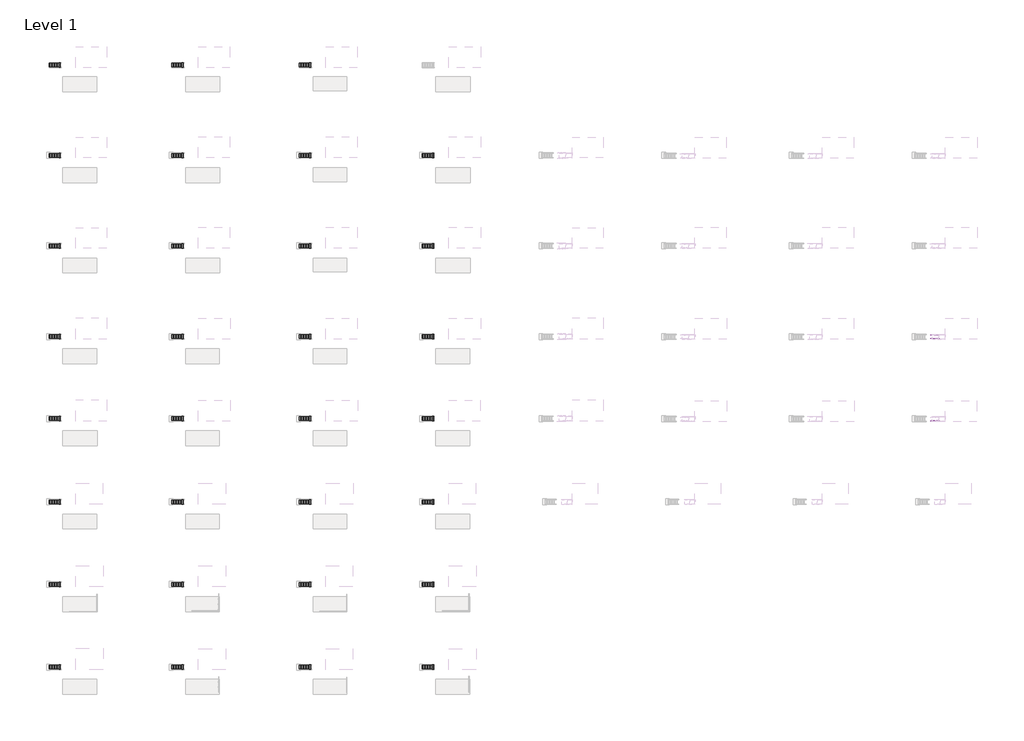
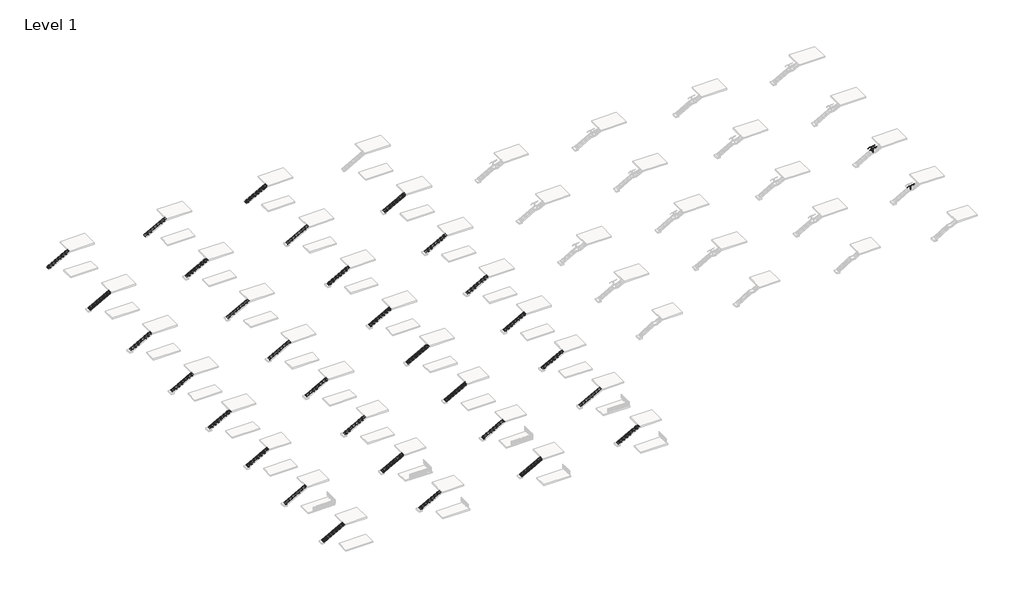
# One storey, part 19 of 26: 31 stair flights, 3 railings.
"""IFC4 building model written with IfcOpenShell, lengths in millimetres."""

from ifc_helpers import new_model, si_unit, point, frame, frame_2d, origin, place, context, project, spatial, polyline, circle_curve, ellipse_curve, trimmed, segment, composite_curve, outline, extrude, faceted_brep, transform, mapped, element, save
from ifc_brep_helpers import plane_surface, cylinder_surface, advanced_brep
from components import stair_flight_2dc6aed0, stair_flight_3eceba13, stair_flight_4fed3eda, stair_flight_8de542de, stair_flight_84e7cb00, stair_flight_2737e0a9, stair_flight_0f1b8569, stair_flight_8bf837ec, stair_flight_2ec5e118, stair_flight_85ec2495, stair_flight_6cf72abf, stair_flight_11199e40, stair_flight_c90e1b77, stair_flight_90c08f38, stair_flight_003d50ed, stair_flight_aaa9c3da, stair_flight_b5908534, stair_flight_c568fea4, stair_flight_5f5a8382, stair_flight_deab16ef, stair_flight_c19d4ff8, stair_flight_ff1bd8d3, stair_flight_e10324fa, stair_flight_2d0f6cab, stair_flight_49b249d5, stair_flight_25ca64cd, stair_flight_015d8b91, stair_flight_cfc8582b, stair_flight_8a9467b6, stair_flight_b878c745, stair_flight_1cc1b1d4

model = new_model("IFC4")

# Units and contexts
model_context = context("Model", 3, world=origin())
ifc_project = project(units=[si_unit("LENGTHUNIT", "METRE", prefix="MILLI")], contexts=[model_context])

# Site, building, storey
site = spatial("IfcSite", under=ifc_project)
building = spatial("IfcBuilding", under=site)
storey = spatial("IfcBuildingStorey", under=building, Name="Level 1", Elevation=0.0)

# Railings
placement = place(None, origin())
element("IfcRailing", 1, ObjectType="VIVA-CUBE-Perforated-Core Mount-Stair-Landing", at=placement, inside=storey, context=model_context, shape_type="SolidModel", body=[
    advanced_brep(
    [(162601.2620703, -1629.7986114, 3009.6740933), (162601.2620703, -1578.9986114, 3009.6740933), (162989.007407, -1629.7986114, 3231.2428571), (162989.007407, -1578.9986114, 3231.2428571), (164055.807407, -1629.7986114, 3231.2428571), (164055.807407, -1578.9986114, 3231.2428571), (164325.2870703, -1629.7986114, 3385.2312362), (164325.2870703, -1578.9986114, 3385.2312362)],
    [
        (0, 1, ellipse_curve(frame((162601.2620703, -1604.3986114, 3009.6740933), z_axis=(-1.0, 0.0, 0.0), x_axis=(0.0, 0.0, -1.0)), 29.2544781, 25.4)),
        (1, 0, ellipse_curve(frame((162601.2620703, -1604.3986114, 3009.6740933), z_axis=(-1.0, 0.0, 0.0), x_axis=(0.0, 0.0, -1.0)), 29.2544781, 25.4)),
        (0, 2),
        (2, 3, ellipse_curve(frame((162989.007407, -1604.3986114, 3231.2428571), z_axis=(-0.9664996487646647, 0.0, -0.25666793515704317), x_axis=(0.2566679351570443, 0.0, -0.9664996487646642)), 26.2804027, 25.4)),
        (3, 1),
        (3, 2, ellipse_curve(frame((162989.007407, -1604.3986114, 3231.2428571), z_axis=(-0.9664996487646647, 0.0, -0.25666793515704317), x_axis=(0.2566679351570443, 0.0, -0.9664996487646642)), 26.2804027, 25.4)),
        (2, 4),
        (4, 5, ellipse_curve(frame((164055.807407, -1604.3986114, 3231.2428571), z_axis=(-0.966499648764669, 0.0, -0.25666793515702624), x_axis=(-0.2566679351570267, 0.0, 0.966499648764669)), 26.2804027, 25.4)),
        (5, 3),
        (5, 4, ellipse_curve(frame((164055.807407, -1604.3986114, 3231.2428571), z_axis=(-0.966499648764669, 0.0, -0.25666793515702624), x_axis=(-0.2566679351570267, 0.0, 0.966499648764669)), 26.2804027, 25.4)),
        (6, 7, ellipse_curve(frame((164325.2870703, -1604.3986114, 3385.2312362), z_axis=(1.0, 0.0, 0.0), x_axis=(0.0, 0.0, -1.0)), 29.2544781, 25.4)),
        (7, 6, ellipse_curve(frame((164325.2870703, -1604.3986114, 3385.2312362), z_axis=(1.0, 0.0, 0.0), x_axis=(0.0, 0.0, -1.0)), 29.2544781, 25.4)),
        (4, 6),
        (7, 5),
    ],
    [
        plane_surface(frame((162601.2620703, -1604.3986114, 3038.9285714), z_axis=(-1.0, 0.0, 0.0), x_axis=(0.0, 1.0, 0.0))),
        cylinder_surface(frame((162613.8639993, -1604.3986114, 3016.8751956), z_axis=(-0.8682431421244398, 0.0, -0.4961389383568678), x_axis=(0.0, 1.0, 0.0)), 25.4),
        cylinder_surface(frame((162982.2620703, -1604.3986114, 3231.2428571), z_axis=(-1.0, 0.0, 0.0), x_axis=(0.0, 1.0, 0.0)), 25.4),
        plane_surface(frame((164325.2870703, -1604.3986114, 3414.4857143), z_axis=(1.0, 0.0, 0.0), x_axis=(0.0, 1.0, 0.0))),
        cylinder_surface(frame((164061.6639993, -1604.3986114, 3234.5894813), z_axis=(-0.8682431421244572, 0.0, -0.49613893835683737), x_axis=(0.0, 1.0, 0.0)), 25.4),
    ],
    [
        (0, [[1, 2]]),
        (1, [[-1, 3, 4, 5]]),
        (1, [[-2, -5, 6, -3]]),
        (2, [[-4, 7, 8, 9]]),
        (2, [[-6, -9, 10, -7]]),
        (3, [[11, 12]]),
        (4, [[-8, 13, -12, 14]]),
        (4, [[-10, -14, -11, -13]]),
    ],
),
    extrude(outline(composite_curve([segment(trimmed(circle_curve(frame_2d((0.0, 7.0)), 7.0), [point((0.0, 14.0))], [point((0.0, 0.0))], False, "CARTESIAN"), True, "CONTINUOUS"), segment(trimmed(circle_curve(frame_2d((0.0, 7.0)), 7.0), [point((0.0, 0.0))], [point((0.0, 14.0))], False, "CARTESIAN"), True, "CONTINUOUS")], self_intersect=False)), frame((163463.7668308, -1690.0824372, 2972.3156836), z_axis=(-0.0012555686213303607, 0.0, 0.999999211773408), x_axis=(-0.999999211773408, 0.0, -0.0012555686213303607)), (0.0, 0.0, 1.0), 75.97),
    extrude(outline(composite_curve([segment(polyline([(-1684.800781, 3056.8509005), (-1683.7743913, 3055.8335135)]), True, "CONTINUOUS"), segment(trimmed(circle_curve(frame_2d((-1684.8303692, 3054.7681916)), 1.5), [point((-1683.7743913, 3055.8335135))], [point((-1683.8449677, 3053.6372698))], False, "CARTESIAN"), True, "CONTINUOUS"), segment(trimmed(circle_curve(frame_2d((-1698.3303692, 3070.2618193)), 22.05), [point((-1683.8449677, 3053.6372698))], [point((-1712.8157707, 3053.6372698))], False, "CARTESIAN"), True, "CONTINUOUS"), segment(trimmed(circle_curve(frame_2d((-1711.8303692, 3054.7681916)), 1.5), [point((-1712.8157707, 3053.6372698))], [point((-1712.8863471, 3055.8335135))], False, "CARTESIAN"), True, "CONTINUOUS"), segment(polyline([(-1712.8863471, 3055.8335135), (-1711.8599574, 3056.8509005)]), True, "CONTINUOUS"), segment(trimmed(circle_curve(frame_2d((-1698.3303692, 3070.2618193)), 19.05), [point((-1711.8599574, 3056.8509005))], [point((-1684.800781, 3056.8509005))], True, "CARTESIAN"), True, "CONTINUOUS")], self_intersect=False)), frame((163425.5952969, 0.0, 0.0), z_axis=(1.0, 0.0, 0.0), x_axis=(0.0, 1.0, 0.0)), (0.0, 0.0, 1.0), 74.5229187),
    extrude(outline(composite_curve([segment(trimmed(circle_curve(frame_2d((2999.1922796, 163463.7069273)), 12.5), [point((2999.1922796, 163476.2069273))], [point((2999.1922796, 163451.2069273))], False, "CARTESIAN"), True, "CONTINUOUS"), segment(trimmed(circle_curve(frame_2d((2999.1922796, 163463.7069273)), 12.5), [point((2999.1922796, 163451.2069273))], [point((2999.1922796, 163476.2069273))], False, "CARTESIAN"), True, "CONTINUOUS")], self_intersect=False)), frame((0.0, -1711.8599574, 0.0), z_axis=(0.0, 1.0, 0.0), x_axis=(0.0, 0.0, 1.0)), (0.0, 0.0, 1.0), 82.061346),
    extrude(outline(composite_curve([segment(trimmed(circle_curve(frame_2d((2999.1922796, 163463.7069273)), 12.5), [point((2999.1922796, 163451.2069273))], [point((2999.1922796, 163476.2069273))], False, "CARTESIAN"), True, "CONTINUOUS"), segment(trimmed(circle_curve(frame_2d((2999.1922796, 163463.7069273)), 12.5), [point((2999.1922796, 163476.2069273))], [point((2999.1922796, 163451.2069273))], False, "CARTESIAN"), True, "CONTINUOUS")], self_intersect=False)), frame((0.0, -1578.9986114, 0.0), z_axis=(0.0, 1.0, 0.0), x_axis=(0.0, 0.0, 1.0)), (0.0, 0.0, 1.0), 7.62),
    extrude(outline(composite_curve([segment(trimmed(circle_curve(frame_2d((163463.6714453, -1604.3986114)), 63.5), [point((163463.6714453, -1540.8986114))], [point((163463.6714453, -1667.8986114))], False, "CARTESIAN"), True, "CONTINUOUS"), segment(trimmed(circle_curve(frame_2d((163463.6714453, -1604.3986114)), 63.5), [point((163463.6714453, -1667.8986114))], [point((163463.6714453, -1540.8986114))], False, "CARTESIAN"), True, "CONTINUOUS")], self_intersect=False), holes=[composite_curve([segment(trimmed(circle_curve(frame_2d((163428.2017014, -1568.9288675)), 4.7625), [point((163428.2017014, -1564.1663675))], [point((163428.2017014, -1573.6913675))], True, "CARTESIAN"), True, "CONTINUOUS"), segment(trimmed(circle_curve(frame_2d((163428.2017014, -1568.9288675)), 4.7625), [point((163428.2017014, -1573.6913675))], [point((163428.2017014, -1564.1663675))], True, "CARTESIAN"), True, "CONTINUOUS")], self_intersect=False), composite_curve([segment(trimmed(circle_curve(frame_2d((163428.2017014, -1639.8683553)), 4.7625), [point((163428.2017014, -1635.1058553))], [point((163428.2017014, -1644.6308553))], True, "CARTESIAN"), True, "CONTINUOUS"), segment(trimmed(circle_curve(frame_2d((163428.2017014, -1639.8683553)), 4.7625), [point((163428.2017014, -1644.6308553))], [point((163428.2017014, -1635.1058553))], True, "CARTESIAN"), True, "CONTINUOUS")], self_intersect=False), composite_curve([segment(trimmed(circle_curve(frame_2d((163499.1411892, -1568.9288675)), 4.7625), [point((163499.1411892, -1564.1663675))], [point((163499.1411892, -1573.6913675))], True, "CARTESIAN"), True, "CONTINUOUS"), segment(trimmed(circle_curve(frame_2d((163499.1411892, -1568.9288675)), 4.7625), [point((163499.1411892, -1573.6913675))], [point((163499.1411892, -1564.1663675))], True, "CARTESIAN"), True, "CONTINUOUS")], self_intersect=False), composite_curve([segment(trimmed(circle_curve(frame_2d((163499.1411892, -1639.8683553)), 4.7625), [point((163499.1411892, -1635.1058553))], [point((163499.1411892, -1644.6308553))], True, "CARTESIAN"), True, "CONTINUOUS"), segment(trimmed(circle_curve(frame_2d((163499.1411892, -1639.8683553)), 4.7625), [point((163499.1411892, -1644.6308553))], [point((163499.1411892, -1635.1058553))], True, "CARTESIAN"), True, "CONTINUOUS")], self_intersect=False)]), frame((0.0, 0.0, 2177.1428571), z_axis=(0.0, 0.0, 1.0), x_axis=(1.0, 0.0, 0.0)), (0.0, 0.0, 1.0), 25.4),
    faceted_brep([(163476.3714453, -1617.0986114, 3174.433132), (163476.3714453, -1608.3673614, 3174.433132), (163450.9714453, -1608.3673614, 3174.433132), (163450.9714453, -1617.0986114, 3174.433132), (163450.9714453, -1591.6986114, 3174.433132), (163450.9714453, -1600.4298614, 3174.433132), (163476.3714453, -1600.4298614, 3174.433132), (163476.3714453, -1591.6986114, 3174.433132), (163489.0714453, -1629.7986114, 3118.2776425), (163489.0714453, -1578.9986114, 3118.2776425), (163438.2714453, -1629.7986114, 3118.2776425), (163438.2714453, -1578.9986114, 3118.2776425), (163489.0714453, -1629.7986114, 2088.2428571), (163438.2714453, -1629.7986114, 2088.2428571), (163438.2714453, -1578.9986114, 2088.2428571), (163489.0714453, -1578.9986114, 2088.2428571), (163450.9714453, -1600.4298614, 3186.4734584), (163450.9714453, -1608.3673614, 3186.4734584), (163476.3714453, -1608.3673614, 3186.4734584), (163476.3714453, -1600.4298614, 3186.4734584)], [[[0, 1, 2, 3]], [[4, 5, 6, 7]], [[8, 9, 7, 6, 1, 0]], [[3, 10, 8, 0]], [[3, 2, 5, 4, 11, 10]], [[7, 9, 11, 4]], [[12, 13, 14, 15]], [[12, 8, 10, 13]], [[13, 10, 11, 14]], [[14, 11, 9, 15]], [[15, 9, 8, 12]], [[16, 17, 18, 19]], [[19, 6, 5, 16]], [[18, 1, 6, 19]], [[17, 2, 1, 18]], [[16, 5, 2, 17]]]),
    extrude(outline(composite_curve([segment(trimmed(circle_curve(frame_2d((-1590.3839792, 3206.6530378)), 2.9558141), [point((-1591.9315369, 3209.1713512))], [point((-1588.0956395, 3204.7821187))], False, "CARTESIAN"), True, "CONTINUOUS"), segment(trimmed(circle_curve(frame_2d((-1604.3618767, 3232.0488022)), 31.75), [point((-1588.0956395, 3204.7821187))], [point((-1619.6125317, 3204.2013603))], False, "CARTESIAN"), True, "CONTINUOUS"), segment(trimmed(circle_curve(frame_2d((-1618.1352267, 3206.5739456)), 2.7949225), [point((-1619.6125317, 3204.2013603))], [point((-1616.8905735, 3209.0764304))], False, "CARTESIAN"), True, "CONTINUOUS"), segment(trimmed(circle_curve(frame_2d((-1604.4953398, 3231.2861755)), 25.4345159), [point((-1616.8905735, 3209.0764304))], [point((-1591.9315369, 3209.1713512))], True, "CARTESIAN"), True, "CONTINUOUS")], self_intersect=False)), frame((163418.4340453, 0.0, 0.0), z_axis=(1.0, 0.0, 0.0), x_axis=(0.0, 1.0, 0.0)), (0.0, 0.0, 1.0), 90.4748),
    extrude(outline(composite_curve([segment(polyline([(3200.5113742, 163490.7393602), (3200.5113742, 163436.6035304)]), True, "CONTINUOUS"), segment(trimmed(circle_curve(frame_2d((3186.1434593, 163436.6035304)), 14.3679149), [point((3200.5113742, 163436.6035304))], [point((3186.1434593, 163450.9714453))], True, "CARTESIAN"), True, "CONTINUOUS"), segment(trimmed(circle_curve(frame_2d((3186.1434593, 163463.6714453)), 12.7), [point((3186.1434593, 163450.9714453))], [point((3186.1434593, 163476.3714453))], False, "CARTESIAN"), True, "CONTINUOUS"), segment(trimmed(circle_curve(frame_2d((3186.1434593, 163490.7393602)), 14.3679149), [point((3186.1434593, 163476.3714453))], [point((3200.5113742, 163490.7393602))], True, "CARTESIAN"), True, "CONTINUOUS")], self_intersect=False)), frame((0.0, -1606.9386114, 0.0), z_axis=(0.0, 1.0, 0.0), x_axis=(0.0, 0.0, 1.0)), (0.0, 0.0, 1.0), 5.08),
])
element("IfcRailing", 2, ObjectType="VIVA-CUBE-Perforated-Core Mount-Stair-Landing", at=placement, inside=storey, context=model_context, shape_type="SolidModel", body=[
    advanced_brep(
    [(162601.2620703, -2366.3986114, 3009.6740933), (162601.2620703, -2315.5986114, 3009.6740933), (162989.007407, -2366.3986114, 3231.2428571), (162989.007407, -2315.5986114, 3231.2428571), (164055.807407, -2366.3986114, 3231.2428571), (164055.807407, -2315.5986114, 3231.2428571), (164325.2870703, -2366.3986114, 3385.2312362), (164325.2870703, -2315.5986114, 3385.2312362)],
    [
        (0, 1, ellipse_curve(frame((162601.2620703, -2340.9986114, 3009.6740933), z_axis=(-1.0, 0.0, 0.0), x_axis=(0.0, 0.0, -1.0)), 29.2544781, 25.4)),
        (1, 0, ellipse_curve(frame((162601.2620703, -2340.9986114, 3009.6740933), z_axis=(-1.0, 0.0, 0.0), x_axis=(0.0, 0.0, -1.0)), 29.2544781, 25.4)),
        (0, 2),
        (2, 3, ellipse_curve(frame((162989.007407, -2340.9986114, 3231.2428571), z_axis=(-0.9664996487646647, 0.0, -0.25666793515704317), x_axis=(0.2566679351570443, 0.0, -0.9664996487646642)), 26.2804027, 25.4)),
        (3, 1),
        (3, 2, ellipse_curve(frame((162989.007407, -2340.9986114, 3231.2428571), z_axis=(-0.9664996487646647, 0.0, -0.25666793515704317), x_axis=(0.2566679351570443, 0.0, -0.9664996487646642)), 26.2804027, 25.4)),
        (2, 4),
        (4, 5, ellipse_curve(frame((164055.807407, -2340.9986114, 3231.2428571), z_axis=(-0.966499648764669, 0.0, -0.25666793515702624), x_axis=(-0.2566679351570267, 0.0, 0.966499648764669)), 26.2804027, 25.4)),
        (5, 3),
        (5, 4, ellipse_curve(frame((164055.807407, -2340.9986114, 3231.2428571), z_axis=(-0.966499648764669, 0.0, -0.25666793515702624), x_axis=(-0.2566679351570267, 0.0, 0.966499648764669)), 26.2804027, 25.4)),
        (6, 7, ellipse_curve(frame((164325.2870703, -2340.9986114, 3385.2312362), z_axis=(1.0, 0.0, 0.0), x_axis=(0.0, 0.0, -1.0)), 29.2544781, 25.4)),
        (7, 6, ellipse_curve(frame((164325.2870703, -2340.9986114, 3385.2312362), z_axis=(1.0, 0.0, 0.0), x_axis=(0.0, 0.0, -1.0)), 29.2544781, 25.4)),
        (4, 6),
        (7, 5),
    ],
    [
        plane_surface(frame((162601.2620703, -2340.9986114, 3038.9285714), z_axis=(-1.0, 0.0, 0.0), x_axis=(0.0, 1.0, 0.0))),
        cylinder_surface(frame((162613.8639993, -2340.9986114, 3016.8751956), z_axis=(-0.8682431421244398, 0.0, -0.4961389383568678), x_axis=(0.0, 1.0, 0.0)), 25.4),
        cylinder_surface(frame((162982.2620703, -2340.9986114, 3231.2428571), z_axis=(-1.0, 0.0, 0.0), x_axis=(0.0, 1.0, 0.0)), 25.4),
        plane_surface(frame((164325.2870703, -2340.9986114, 3414.4857143), z_axis=(1.0, 0.0, 0.0), x_axis=(0.0, 1.0, 0.0))),
        cylinder_surface(frame((164061.6639993, -2340.9986114, 3234.5894813), z_axis=(-0.8682431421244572, 0.0, -0.49613893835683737), x_axis=(0.0, 1.0, 0.0)), 25.4),
    ],
    [
        (0, [[1, 2]]),
        (1, [[-1, 3, 4, 5]]),
        (1, [[-2, -5, 6, -3]]),
        (2, [[-4, 7, 8, 9]]),
        (2, [[-6, -9, 10, -7]]),
        (3, [[11, 12]]),
        (4, [[-8, 13, -12, 14]]),
        (4, [[-10, -14, -11, -13]]),
    ],
),
    extrude(outline(composite_curve([segment(trimmed(circle_curve(frame_2d((0.0, -7.0)), 7.0), [point((0.0, -14.0))], [point((0.0, 0.0))], False, "CARTESIAN"), True, "CONTINUOUS"), segment(trimmed(circle_curve(frame_2d((0.0, -7.0)), 7.0), [point((0.0, 0.0))], [point((0.0, -14.0))], False, "CARTESIAN"), True, "CONTINUOUS")], self_intersect=False)), frame((163463.7668308, -2255.3147856, 2972.3156836), z_axis=(-0.0012555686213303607, 0.0, 0.999999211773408), x_axis=(-0.999999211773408, 0.0, -0.0012555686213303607)), (0.0, 0.0, 1.0), 75.97),
    extrude(outline(composite_curve([segment(trimmed(circle_curve(frame_2d((-2247.0668536, 3070.2618193)), 19.05), [point((-2260.5964418, 3056.8509005))], [point((-2233.5372654, 3056.8509005))], True, "CARTESIAN"), True, "CONTINUOUS"), segment(polyline([(-2233.5372654, 3056.8509005), (-2232.5108757, 3055.8335135)]), True, "CONTINUOUS"), segment(trimmed(circle_curve(frame_2d((-2233.5668536, 3054.7681916)), 1.5), [point((-2232.5108757, 3055.8335135))], [point((-2232.5814521, 3053.6372698))], False, "CARTESIAN"), True, "CONTINUOUS"), segment(trimmed(circle_curve(frame_2d((-2247.0668536, 3070.2618193)), 22.05), [point((-2232.5814521, 3053.6372698))], [point((-2261.5522551, 3053.6372698))], False, "CARTESIAN"), True, "CONTINUOUS"), segment(trimmed(circle_curve(frame_2d((-2260.5668536, 3054.7681916)), 1.5), [point((-2261.5522551, 3053.6372698))], [point((-2261.6228315, 3055.8335135))], False, "CARTESIAN"), True, "CONTINUOUS"), segment(polyline([(-2261.6228315, 3055.8335135), (-2260.5964418, 3056.8509005)]), True, "CONTINUOUS")], self_intersect=False)), frame((163425.5952969, 0.0, 0.0), z_axis=(1.0, 0.0, 0.0), x_axis=(0.0, 1.0, 0.0)), (0.0, 0.0, 1.0), 74.5229187),
    extrude(outline(composite_curve([segment(trimmed(circle_curve(frame_2d((2999.1922796, 163463.7069273)), 12.5), [point((2999.1922796, 163476.2069273))], [point((2999.1922796, 163451.2069273))], False, "CARTESIAN"), True, "CONTINUOUS"), segment(trimmed(circle_curve(frame_2d((2999.1922796, 163463.7069273)), 12.5), [point((2999.1922796, 163451.2069273))], [point((2999.1922796, 163476.2069273))], False, "CARTESIAN"), True, "CONTINUOUS")], self_intersect=False)), frame((0.0, -2315.5986114, 0.0), z_axis=(0.0, 1.0, 0.0), x_axis=(0.0, 0.0, 1.0)), (0.0, 0.0, 1.0), 82.061346),
    extrude(outline(composite_curve([segment(trimmed(circle_curve(frame_2d((2999.1922796, 163463.7069273)), 12.5), [point((2999.1922796, 163451.2069273))], [point((2999.1922796, 163476.2069273))], False, "CARTESIAN"), True, "CONTINUOUS"), segment(trimmed(circle_curve(frame_2d((2999.1922796, 163463.7069273)), 12.5), [point((2999.1922796, 163476.2069273))], [point((2999.1922796, 163451.2069273))], False, "CARTESIAN"), True, "CONTINUOUS")], self_intersect=False)), frame((0.0, -2374.0186114, 0.0), z_axis=(0.0, 1.0, 0.0), x_axis=(0.0, 0.0, 1.0)), (0.0, 0.0, 1.0), 7.62),
    extrude(outline(composite_curve([segment(trimmed(circle_curve(frame_2d((163463.6714453, -2340.9986114)), 63.5), [point((163463.6714453, -2404.4986114))], [point((163463.6714453, -2277.4986114))], False, "CARTESIAN"), True, "CONTINUOUS"), segment(trimmed(circle_curve(frame_2d((163463.6714453, -2340.9986114)), 63.5), [point((163463.6714453, -2277.4986114))], [point((163463.6714453, -2404.4986114))], False, "CARTESIAN"), True, "CONTINUOUS")], self_intersect=False), holes=[composite_curve([segment(trimmed(circle_curve(frame_2d((163428.2017014, -2376.4683553)), 4.7625), [point((163428.2017014, -2381.2308553))], [point((163428.2017014, -2371.7058553))], True, "CARTESIAN"), True, "CONTINUOUS"), segment(trimmed(circle_curve(frame_2d((163428.2017014, -2376.4683553)), 4.7625), [point((163428.2017014, -2371.7058553))], [point((163428.2017014, -2381.2308553))], True, "CARTESIAN"), True, "CONTINUOUS")], self_intersect=False), composite_curve([segment(trimmed(circle_curve(frame_2d((163428.2017014, -2305.5288675)), 4.7625), [point((163428.2017014, -2310.2913675))], [point((163428.2017014, -2300.7663675))], True, "CARTESIAN"), True, "CONTINUOUS"), segment(trimmed(circle_curve(frame_2d((163428.2017014, -2305.5288675)), 4.7625), [point((163428.2017014, -2300.7663675))], [point((163428.2017014, -2310.2913675))], True, "CARTESIAN"), True, "CONTINUOUS")], self_intersect=False), composite_curve([segment(trimmed(circle_curve(frame_2d((163499.1411892, -2376.4683553)), 4.7625), [point((163499.1411892, -2381.2308553))], [point((163499.1411892, -2371.7058553))], True, "CARTESIAN"), True, "CONTINUOUS"), segment(trimmed(circle_curve(frame_2d((163499.1411892, -2376.4683553)), 4.7625), [point((163499.1411892, -2371.7058553))], [point((163499.1411892, -2381.2308553))], True, "CARTESIAN"), True, "CONTINUOUS")], self_intersect=False), composite_curve([segment(trimmed(circle_curve(frame_2d((163499.1411892, -2305.5288675)), 4.7625), [point((163499.1411892, -2310.2913675))], [point((163499.1411892, -2300.7663675))], True, "CARTESIAN"), True, "CONTINUOUS"), segment(trimmed(circle_curve(frame_2d((163499.1411892, -2305.5288675)), 4.7625), [point((163499.1411892, -2300.7663675))], [point((163499.1411892, -2310.2913675))], True, "CARTESIAN"), True, "CONTINUOUS")], self_intersect=False)]), frame((0.0, 0.0, 2177.1428571), z_axis=(0.0, 0.0, 1.0), x_axis=(1.0, 0.0, 0.0)), (0.0, 0.0, 1.0), 25.4),
    faceted_brep([(163476.3714453, -2328.2986114, 3174.433132), (163450.9714453, -2328.2986114, 3174.433132), (163450.9714453, -2337.0298614, 3174.433132), (163476.3714453, -2337.0298614, 3174.433132), (163450.9714453, -2353.6986114, 3174.433132), (163476.3714453, -2353.6986114, 3174.433132), (163476.3714453, -2344.9673614, 3174.433132), (163450.9714453, -2344.9673614, 3174.433132), (163489.0714453, -2315.5986114, 3118.2776425), (163489.0714453, -2366.3986114, 3118.2776425), (163438.2714453, -2315.5986114, 3118.2776425), (163438.2714453, -2366.3986114, 3118.2776425), (163489.0714453, -2315.5986114, 2088.2428571), (163489.0714453, -2366.3986114, 2088.2428571), (163438.2714453, -2366.3986114, 2088.2428571), (163438.2714453, -2315.5986114, 2088.2428571), (163450.9714453, -2344.9673614, 3186.4734584), (163476.3714453, -2344.9673614, 3186.4734584), (163476.3714453, -2337.0298614, 3186.4734584), (163450.9714453, -2337.0298614, 3186.4734584)], [[[0, 1, 2, 3]], [[4, 5, 6, 7]], [[8, 0, 3, 6, 5, 9]], [[1, 0, 8, 10]], [[1, 10, 11, 4, 7, 2]], [[5, 4, 11, 9]], [[12, 13, 14, 15]], [[12, 15, 10, 8]], [[15, 14, 11, 10]], [[14, 13, 9, 11]], [[13, 12, 8, 9]], [[16, 17, 18, 19]], [[17, 16, 7, 6]], [[18, 17, 6, 3]], [[19, 18, 3, 2]], [[16, 19, 2, 7]]]),
    extrude(outline(composite_curve([segment(trimmed(circle_curve(frame_2d((-2340.901883, 3231.2861755)), 25.4345159), [point((-2353.4656859, 3209.1713512))], [point((-2328.5066493, 3209.0764304))], True, "CARTESIAN"), True, "CONTINUOUS"), segment(trimmed(circle_curve(frame_2d((-2327.2619961, 3206.5739456)), 2.7949225), [point((-2328.5066493, 3209.0764304))], [point((-2325.7846911, 3204.2013603))], False, "CARTESIAN"), True, "CONTINUOUS"), segment(trimmed(circle_curve(frame_2d((-2341.0353461, 3232.0488022)), 31.75), [point((-2325.7846911, 3204.2013603))], [point((-2357.3015833, 3204.7821187))], False, "CARTESIAN"), True, "CONTINUOUS"), segment(trimmed(circle_curve(frame_2d((-2355.0132436, 3206.6530378)), 2.9558141), [point((-2357.3015833, 3204.7821187))], [point((-2353.4656859, 3209.1713512))], False, "CARTESIAN"), True, "CONTINUOUS")], self_intersect=False)), frame((163418.4340453, 0.0, 0.0), z_axis=(1.0, 0.0, 0.0), x_axis=(0.0, 1.0, 0.0)), (0.0, 0.0, 1.0), 90.4748),
    extrude(outline(composite_curve([segment(polyline([(3200.5113742, 163490.7393602), (3200.5113742, 163436.6035304)]), True, "CONTINUOUS"), segment(trimmed(circle_curve(frame_2d((3186.1434593, 163436.6035304)), 14.3679149), [point((3200.5113742, 163436.6035304))], [point((3186.1434593, 163450.9714453))], True, "CARTESIAN"), True, "CONTINUOUS"), segment(trimmed(circle_curve(frame_2d((3186.1434593, 163463.6714453)), 12.7), [point((3186.1434593, 163450.9714453))], [point((3186.1434593, 163476.3714453))], False, "CARTESIAN"), True, "CONTINUOUS"), segment(trimmed(circle_curve(frame_2d((3186.1434593, 163490.7393602)), 14.3679149), [point((3186.1434593, 163476.3714453))], [point((3200.5113742, 163490.7393602))], True, "CARTESIAN"), True, "CONTINUOUS")], self_intersect=False)), frame((0.0, -2343.5386114, 0.0), z_axis=(0.0, 1.0, 0.0), x_axis=(0.0, 0.0, 1.0)), (0.0, 0.0, 1.0), 5.08),
])
element("IfcRailing", 3, ObjectType="VIVA-CUBE-Wire Mesh-Core Mount-Stair-Landing", at=placement, inside=storey, context=model_context, shape_type="SolidModel", body=[
    advanced_brep(
    [(162601.2620703, -18885.1120358, 3009.6740933), (162601.2620703, -18834.3120358, 3009.6740933), (162989.007407, -18885.1120358, 3231.2428571), (162989.007407, -18834.3120358, 3231.2428571), (164055.807407, -18885.1120358, 3231.2428571), (164055.807407, -18834.3120358, 3231.2428571), (164325.2870703, -18885.1120358, 3385.2312362), (164325.2870703, -18834.3120358, 3385.2312362)],
    [
        (0, 1, ellipse_curve(frame((162601.2620703, -18859.7120358, 3009.6740933), z_axis=(-1.0, 0.0, 0.0), x_axis=(0.0, 0.0, -1.0)), 29.2544781, 25.4)),
        (1, 0, ellipse_curve(frame((162601.2620703, -18859.7120358, 3009.6740933), z_axis=(-1.0, 0.0, 0.0), x_axis=(0.0, 0.0, -1.0)), 29.2544781, 25.4)),
        (0, 2),
        (2, 3, ellipse_curve(frame((162989.007407, -18859.7120358, 3231.2428571), z_axis=(-0.9664996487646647, 0.0, -0.2566679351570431), x_axis=(0.2566679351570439, 0.0, -0.9664996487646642)), 26.2804027, 25.4)),
        (3, 1),
        (3, 2, ellipse_curve(frame((162989.007407, -18859.7120358, 3231.2428571), z_axis=(-0.9664996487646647, 0.0, -0.2566679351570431), x_axis=(0.2566679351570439, 0.0, -0.9664996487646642)), 26.2804027, 25.4)),
        (2, 4),
        (4, 5, ellipse_curve(frame((164055.807407, -18859.7120358, 3231.2428571), z_axis=(-0.966499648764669, 0.0, -0.25666793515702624), x_axis=(-0.25666793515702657, 0.0, 0.966499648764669)), 26.2804027, 25.4)),
        (5, 3),
        (5, 4, ellipse_curve(frame((164055.807407, -18859.7120358, 3231.2428571), z_axis=(-0.966499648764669, 0.0, -0.25666793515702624), x_axis=(-0.25666793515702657, 0.0, 0.966499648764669)), 26.2804027, 25.4)),
        (6, 7, ellipse_curve(frame((164325.2870703, -18859.7120358, 3385.2312362), z_axis=(1.0, 0.0, 0.0), x_axis=(0.0, 0.0, -1.0)), 29.2544781, 25.4)),
        (7, 6, ellipse_curve(frame((164325.2870703, -18859.7120358, 3385.2312362), z_axis=(1.0, 0.0, 0.0), x_axis=(0.0, 0.0, -1.0)), 29.2544781, 25.4)),
        (4, 6),
        (7, 5),
    ],
    [
        plane_surface(frame((162601.2620703, -18859.7120358, 3038.9285714), z_axis=(-1.0, 0.0, 0.0), x_axis=(0.0, 1.0, 0.0))),
        cylinder_surface(frame((162613.8639993, -18859.7120358, 3016.8751956), z_axis=(-0.8682431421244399, 0.0, -0.4961389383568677), x_axis=(0.0, 1.0, 0.0)), 25.4),
        cylinder_surface(frame((162982.2620703, -18859.7120358, 3231.2428571), z_axis=(-1.0, 0.0, 0.0), x_axis=(0.0, 1.0, 0.0)), 25.4),
        plane_surface(frame((164325.2870703, -18859.7120358, 3414.4857143), z_axis=(1.0, 0.0, 0.0), x_axis=(0.0, 1.0, 0.0))),
        cylinder_surface(frame((164061.6639993, -18859.7120358, 3234.5894813), z_axis=(-0.8682431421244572, 0.0, -0.49613893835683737), x_axis=(0.0, 1.0, 0.0)), 25.4),
    ],
    [
        (0, [[1, 2]]),
        (1, [[-1, 3, 4, 5]]),
        (1, [[-2, -5, 6, -3]]),
        (2, [[-4, 7, 8, 9]]),
        (2, [[-6, -9, 10, -7]]),
        (3, [[11, 12]]),
        (4, [[-8, 13, -12, 14]]),
        (4, [[-10, -14, -11, -13]]),
    ],
),
    extrude(outline(composite_curve([segment(trimmed(circle_curve(frame_2d((0.0, -7.0)), 7.0), [point((0.0, -14.0))], [point((0.0, 0.0))], False, "CARTESIAN"), True, "CONTINUOUS"), segment(trimmed(circle_curve(frame_2d((0.0, -7.0)), 7.0), [point((0.0, 0.0))], [point((0.0, -14.0))], False, "CARTESIAN"), True, "CONTINUOUS")], self_intersect=False)), frame((163463.7668308, -18774.02821, 2972.3156836), z_axis=(-0.0012555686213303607, 0.0, 0.999999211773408), x_axis=(-0.999999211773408, 0.0, -0.0012555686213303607)), (0.0, 0.0, 1.0), 75.97),
    extrude(outline(composite_curve([segment(trimmed(circle_curve(frame_2d((-18765.780278, 3070.2618193)), 19.05), [point((-18779.3098662, 3056.8509005))], [point((-18752.2506898, 3056.8509005))], True, "CARTESIAN"), True, "CONTINUOUS"), segment(polyline([(-18752.2506898, 3056.8509005), (-18751.2243001, 3055.8335135)]), True, "CONTINUOUS"), segment(trimmed(circle_curve(frame_2d((-18752.280278, 3054.7681916)), 1.5), [point((-18751.2243001, 3055.8335135))], [point((-18751.2948765, 3053.6372698))], False, "CARTESIAN"), True, "CONTINUOUS"), segment(trimmed(circle_curve(frame_2d((-18765.780278, 3070.2618193)), 22.05), [point((-18751.2948765, 3053.6372698))], [point((-18780.2656795, 3053.6372698))], False, "CARTESIAN"), True, "CONTINUOUS"), segment(trimmed(circle_curve(frame_2d((-18779.280278, 3054.7681916)), 1.5), [point((-18780.2656795, 3053.6372698))], [point((-18780.3362559, 3055.8335135))], False, "CARTESIAN"), True, "CONTINUOUS"), segment(polyline([(-18780.3362559, 3055.8335135), (-18779.3098662, 3056.8509005)]), True, "CONTINUOUS")], self_intersect=False)), frame((163425.5952969, 0.0, 0.0), z_axis=(1.0, 0.0, 0.0), x_axis=(0.0, 1.0, 0.0)), (0.0, 0.0, 1.0), 74.5229187),
    extrude(outline(composite_curve([segment(trimmed(circle_curve(frame_2d((2999.1922796, 163463.7069273)), 12.5), [point((2999.1922796, 163476.2069273))], [point((2999.1922796, 163451.2069273))], False, "CARTESIAN"), True, "CONTINUOUS"), segment(trimmed(circle_curve(frame_2d((2999.1922796, 163463.7069273)), 12.5), [point((2999.1922796, 163451.2069273))], [point((2999.1922796, 163476.2069273))], False, "CARTESIAN"), True, "CONTINUOUS")], self_intersect=False)), frame((0.0, -18834.3120358, 0.0), z_axis=(0.0, 1.0, 0.0), x_axis=(0.0, 0.0, 1.0)), (0.0, 0.0, 1.0), 82.061346),
    extrude(outline(composite_curve([segment(trimmed(circle_curve(frame_2d((2999.1922796, 163463.7069273)), 12.5), [point((2999.1922796, 163451.2069273))], [point((2999.1922796, 163476.2069273))], False, "CARTESIAN"), True, "CONTINUOUS"), segment(trimmed(circle_curve(frame_2d((2999.1922796, 163463.7069273)), 12.5), [point((2999.1922796, 163476.2069273))], [point((2999.1922796, 163451.2069273))], False, "CARTESIAN"), True, "CONTINUOUS")], self_intersect=False)), frame((0.0, -18892.7320358, 0.0), z_axis=(0.0, 1.0, 0.0), x_axis=(0.0, 0.0, 1.0)), (0.0, 0.0, 1.0), 7.62),
    extrude(outline(composite_curve([segment(trimmed(circle_curve(frame_2d((163463.6714453, -18859.7120358)), 63.5), [point((163463.6714453, -18923.2120358))], [point((163463.6714453, -18796.2120358))], False, "CARTESIAN"), True, "CONTINUOUS"), segment(trimmed(circle_curve(frame_2d((163463.6714453, -18859.7120358)), 63.5), [point((163463.6714453, -18796.2120358))], [point((163463.6714453, -18923.2120358))], False, "CARTESIAN"), True, "CONTINUOUS")], self_intersect=False), holes=[composite_curve([segment(trimmed(circle_curve(frame_2d((163428.2017014, -18895.1817797)), 4.7625), [point((163428.2017014, -18899.9442797))], [point((163428.2017014, -18890.4192797))], True, "CARTESIAN"), True, "CONTINUOUS"), segment(trimmed(circle_curve(frame_2d((163428.2017014, -18895.1817797)), 4.7625), [point((163428.2017014, -18890.4192797))], [point((163428.2017014, -18899.9442797))], True, "CARTESIAN"), True, "CONTINUOUS")], self_intersect=False), composite_curve([segment(trimmed(circle_curve(frame_2d((163428.2017014, -18824.2422919)), 4.7625), [point((163428.2017014, -18829.0047919))], [point((163428.2017014, -18819.4797919))], True, "CARTESIAN"), True, "CONTINUOUS"), segment(trimmed(circle_curve(frame_2d((163428.2017014, -18824.2422919)), 4.7625), [point((163428.2017014, -18819.4797919))], [point((163428.2017014, -18829.0047919))], True, "CARTESIAN"), True, "CONTINUOUS")], self_intersect=False), composite_curve([segment(trimmed(circle_curve(frame_2d((163499.1411892, -18895.1817797)), 4.7625), [point((163499.1411892, -18899.9442797))], [point((163499.1411892, -18890.4192797))], True, "CARTESIAN"), True, "CONTINUOUS"), segment(trimmed(circle_curve(frame_2d((163499.1411892, -18895.1817797)), 4.7625), [point((163499.1411892, -18890.4192797))], [point((163499.1411892, -18899.9442797))], True, "CARTESIAN"), True, "CONTINUOUS")], self_intersect=False), composite_curve([segment(trimmed(circle_curve(frame_2d((163499.1411892, -18824.2422919)), 4.7625), [point((163499.1411892, -18829.0047919))], [point((163499.1411892, -18819.4797919))], True, "CARTESIAN"), True, "CONTINUOUS"), segment(trimmed(circle_curve(frame_2d((163499.1411892, -18824.2422919)), 4.7625), [point((163499.1411892, -18819.4797919))], [point((163499.1411892, -18829.0047919))], True, "CARTESIAN"), True, "CONTINUOUS")], self_intersect=False)]), frame((0.0, 0.0, 2177.1428571), z_axis=(0.0, 0.0, 1.0), x_axis=(1.0, 0.0, 0.0)), (0.0, 0.0, 1.0), 25.4),
    faceted_brep([(163476.3714453, -18847.0120358, 3174.433132), (163450.9714453, -18847.0120358, 3174.433132), (163450.9714453, -18855.7432858, 3174.433132), (163476.3714453, -18855.7432858, 3174.433132), (163450.9714453, -18872.4120358, 3174.433132), (163476.3714453, -18872.4120358, 3174.433132), (163476.3714453, -18863.6807858, 3174.433132), (163450.9714453, -18863.6807858, 3174.433132), (163489.0714453, -18834.3120358, 3118.2776425), (163489.0714453, -18885.1120358, 3118.2776425), (163438.2714453, -18834.3120358, 3118.2776425), (163438.2714453, -18885.1120358, 3118.2776425), (163489.0714453, -18834.3120358, 2088.2428571), (163489.0714453, -18885.1120358, 2088.2428571), (163438.2714453, -18885.1120358, 2088.2428571), (163438.2714453, -18834.3120358, 2088.2428571), (163450.9714453, -18863.6807858, 3186.4734584), (163476.3714453, -18863.6807858, 3186.4734584), (163476.3714453, -18855.7432858, 3186.4734584), (163450.9714453, -18855.7432858, 3186.4734584)], [[[0, 1, 2, 3]], [[4, 5, 6, 7]], [[8, 0, 3, 6, 5, 9]], [[1, 0, 8, 10]], [[1, 10, 11, 4, 7, 2]], [[5, 4, 11, 9]], [[12, 13, 14, 15]], [[12, 15, 10, 8]], [[15, 14, 11, 10]], [[14, 13, 9, 11]], [[13, 12, 8, 9]], [[16, 17, 18, 19]], [[17, 16, 7, 6]], [[18, 17, 6, 3]], [[19, 18, 3, 2]], [[16, 19, 2, 7]]]),
    extrude(outline(composite_curve([segment(trimmed(circle_curve(frame_2d((-18859.6153074, 3231.2861755)), 25.4345159), [point((-18872.1791103, 3209.1713512))], [point((-18847.2200737, 3209.0764304))], True, "CARTESIAN"), True, "CONTINUOUS"), segment(trimmed(circle_curve(frame_2d((-18845.9754205, 3206.5739456)), 2.7949225), [point((-18847.2200737, 3209.0764304))], [point((-18844.4981155, 3204.2013603))], False, "CARTESIAN"), True, "CONTINUOUS"), segment(trimmed(circle_curve(frame_2d((-18859.7487705, 3232.0488022)), 31.75), [point((-18844.4981155, 3204.2013603))], [point((-18876.0150077, 3204.7821187))], False, "CARTESIAN"), True, "CONTINUOUS"), segment(trimmed(circle_curve(frame_2d((-18873.726668, 3206.6530378)), 2.9558141), [point((-18876.0150077, 3204.7821187))], [point((-18872.1791103, 3209.1713512))], False, "CARTESIAN"), True, "CONTINUOUS")], self_intersect=False)), frame((163418.4340453, 0.0, 0.0), z_axis=(1.0, 0.0, 0.0), x_axis=(0.0, 1.0, 0.0)), (0.0, 0.0, 1.0), 90.4748),
    extrude(outline(composite_curve([segment(polyline([(3200.5113742, 163490.7393602), (3200.5113742, 163436.6035304)]), True, "CONTINUOUS"), segment(trimmed(circle_curve(frame_2d((3186.1434593, 163436.6035304)), 14.3679149), [point((3200.5113742, 163436.6035304))], [point((3186.1434593, 163450.9714453))], True, "CARTESIAN"), True, "CONTINUOUS"), segment(trimmed(circle_curve(frame_2d((3186.1434593, 163463.6714453)), 12.7), [point((3186.1434593, 163450.9714453))], [point((3186.1434593, 163476.3714453))], False, "CARTESIAN"), True, "CONTINUOUS"), segment(trimmed(circle_curve(frame_2d((3186.1434593, 163490.7393602)), 14.3679149), [point((3186.1434593, 163476.3714453))], [point((3200.5113742, 163490.7393602))], True, "CARTESIAN"), True, "CONTINUOUS")], self_intersect=False)), frame((0.0, -18862.2520358, 0.0), z_axis=(0.0, 1.0, 0.0), x_axis=(0.0, 0.0, 1.0)), (0.0, 0.0, 1.0), 5.08),
])

# Stair flights
stair_flight_shape = stair_flight_2dc6aed0(model_context)
element("IfcStairFlight", 4, ObjectType="2\" Tread 1/4\" Riser", at=placement, inside=storey, context=model_context, shape_type="MappedRepresentation", body=[
    mapped(stair_flight_shape, transform((0.0, 0.0, 0.0), x_axis=(1.0, 0.0, 0.0), y_axis=(0.0, 1.0, 0.0), z_axis=(0.0, 0.0, 1.0))),
])
stair_flight_2_shape = stair_flight_3eceba13(model_context)
element("IfcStairFlight", 5, ObjectType="2\" Tread 1/4\" Riser", at=placement, inside=storey, context=model_context, shape_type="MappedRepresentation", body=[
    mapped(stair_flight_2_shape, transform((0.0, 0.0, 0.0), x_axis=(1.0, 0.0, 0.0), y_axis=(0.0, 1.0, 0.0), z_axis=(0.0, 0.0, 1.0))),
])
stair_flight_3_shape = stair_flight_4fed3eda(model_context)
element("IfcStairFlight", 6, ObjectType="2\" Tread 1/4\" Riser", at=placement, inside=storey, context=model_context, shape_type="MappedRepresentation", body=[
    mapped(stair_flight_3_shape, transform((0.0, 0.0, 0.0), x_axis=(1.0, 0.0, 0.0), y_axis=(0.0, 1.0, 0.0), z_axis=(0.0, 0.0, 1.0))),
])
stair_flight_4_shape = stair_flight_8de542de(model_context)
element("IfcStairFlight", 7, ObjectType="2\" Tread 1/4\" Riser", at=placement, inside=storey, context=model_context, shape_type="MappedRepresentation", body=[
    mapped(stair_flight_4_shape, transform((0.0, 0.0, 0.0), x_axis=(1.0, 0.0, 0.0), y_axis=(0.0, 1.0, 0.0), z_axis=(0.0, 0.0, 1.0))),
])
stair_flight_5_shape = stair_flight_84e7cb00(model_context)
element("IfcStairFlight", 8, ObjectType="2\" Tread 1/4\" Riser", at=placement, inside=storey, context=model_context, shape_type="MappedRepresentation", body=[
    mapped(stair_flight_5_shape, transform((0.0, 0.0, 0.0), x_axis=(1.0, 0.0, 0.0), y_axis=(0.0, 1.0, 0.0), z_axis=(0.0, 0.0, 1.0))),
])
stair_flight_6_shape = stair_flight_2737e0a9(model_context)
element("IfcStairFlight", 9, ObjectType="2\" Tread 1/4\" Riser", at=placement, inside=storey, context=model_context, shape_type="MappedRepresentation", body=[
    mapped(stair_flight_6_shape, transform((0.0, 0.0, 0.0), x_axis=(1.0, 0.0, 0.0), y_axis=(0.0, 1.0, 0.0), z_axis=(0.0, 0.0, 1.0))),
])
stair_flight_7_shape = stair_flight_0f1b8569(model_context)
element("IfcStairFlight", 10, ObjectType="2\" Tread 1/4\" Riser", at=placement, inside=storey, context=model_context, shape_type="MappedRepresentation", body=[
    mapped(stair_flight_7_shape, transform((0.0, 0.0, 0.0), x_axis=(1.0, 0.0, 0.0), y_axis=(0.0, 1.0, 0.0), z_axis=(0.0, 0.0, 1.0))),
])
stair_flight_8_shape = stair_flight_8bf837ec(model_context)
element("IfcStairFlight", 11, ObjectType="2\" Tread 1/4\" Riser", at=placement, inside=storey, context=model_context, shape_type="MappedRepresentation", body=[
    mapped(stair_flight_8_shape, transform((0.0, 0.0, 0.0), x_axis=(1.0, 0.0, 0.0), y_axis=(0.0, 1.0, 0.0), z_axis=(0.0, 0.0, 1.0))),
])
stair_flight_9_shape = stair_flight_2ec5e118(model_context)
element("IfcStairFlight", 12, ObjectType="2\" Tread 1/4\" Riser", at=placement, inside=storey, context=model_context, shape_type="MappedRepresentation", body=[
    mapped(stair_flight_9_shape, transform((0.0, 0.0, 0.0), x_axis=(1.0, 0.0, 0.0), y_axis=(0.0, 1.0, 0.0), z_axis=(0.0, 0.0, 1.0))),
])
stair_flight_10_shape = stair_flight_85ec2495(model_context)
element("IfcStairFlight", 13, ObjectType="2\" Tread 1/4\" Riser", at=placement, inside=storey, context=model_context, shape_type="MappedRepresentation", body=[
    mapped(stair_flight_10_shape, transform((0.0, 0.0, 0.0), x_axis=(1.0, 0.0, 0.0), y_axis=(0.0, 1.0, 0.0), z_axis=(0.0, 0.0, 1.0))),
])
stair_flight_11_shape = stair_flight_6cf72abf(model_context)
element("IfcStairFlight", 14, ObjectType="2\" Tread 1/4\" Riser", at=placement, inside=storey, context=model_context, shape_type="MappedRepresentation", body=[
    mapped(stair_flight_11_shape, transform((0.0, 0.0, 0.0), x_axis=(1.0, 0.0, 0.0), y_axis=(0.0, 1.0, 0.0), z_axis=(0.0, 0.0, 1.0))),
])
stair_flight_12_shape = stair_flight_11199e40(model_context)
element("IfcStairFlight", 15, ObjectType="2\" Tread 1/4\" Riser", at=placement, inside=storey, context=model_context, shape_type="MappedRepresentation", body=[
    mapped(stair_flight_12_shape, transform((0.0, 0.0, 0.0), x_axis=(1.0, 0.0, 0.0), y_axis=(0.0, 1.0, 0.0), z_axis=(0.0, 0.0, 1.0))),
])
stair_flight_13_shape = stair_flight_c90e1b77(model_context)
element("IfcStairFlight", 16, ObjectType="2\" Tread 1/4\" Riser", at=placement, inside=storey, context=model_context, shape_type="MappedRepresentation", body=[
    mapped(stair_flight_13_shape, transform((0.0, 0.0, 0.0), x_axis=(1.0, 0.0, 0.0), y_axis=(0.0, 1.0, 0.0), z_axis=(0.0, 0.0, 1.0))),
])
stair_flight_14_shape = stair_flight_90c08f38(model_context)
element("IfcStairFlight", 17, ObjectType="2\" Tread 1/4\" Riser", at=placement, inside=storey, context=model_context, shape_type="MappedRepresentation", body=[
    mapped(stair_flight_14_shape, transform((0.0, 0.0, 0.0), x_axis=(1.0, 0.0, 0.0), y_axis=(0.0, 1.0, 0.0), z_axis=(0.0, 0.0, 1.0))),
])
stair_flight_15_shape = stair_flight_003d50ed(model_context)
element("IfcStairFlight", 18, ObjectType="2\" Tread 1/4\" Riser", at=placement, inside=storey, context=model_context, shape_type="MappedRepresentation", body=[
    mapped(stair_flight_15_shape, transform((0.0, 0.0, 0.0), x_axis=(1.0, 0.0, 0.0), y_axis=(0.0, 1.0, 0.0), z_axis=(0.0, 0.0, 1.0))),
])
stair_flight_16_shape = stair_flight_aaa9c3da(model_context)
element("IfcStairFlight", 19, ObjectType="2\" Tread 1/4\" Riser", at=placement, inside=storey, context=model_context, shape_type="MappedRepresentation", body=[
    mapped(stair_flight_16_shape, transform((0.0, 0.0, 0.0), x_axis=(1.0, 0.0, 0.0), y_axis=(0.0, 1.0, 0.0), z_axis=(0.0, 0.0, 1.0))),
])
stair_flight_17_shape = stair_flight_b5908534(model_context)
element("IfcStairFlight", 20, ObjectType="2\" Tread 1/4\" Riser", at=placement, inside=storey, context=model_context, shape_type="MappedRepresentation", body=[
    mapped(stair_flight_17_shape, transform((0.0, 0.0, 0.0), x_axis=(1.0, 0.0, 0.0), y_axis=(0.0, 1.0, 0.0), z_axis=(0.0, 0.0, 1.0))),
])
stair_flight_18_shape = stair_flight_c568fea4(model_context)
element("IfcStairFlight", 21, ObjectType="2\" Tread 1/4\" Riser", at=placement, inside=storey, context=model_context, shape_type="MappedRepresentation", body=[
    mapped(stair_flight_18_shape, transform((0.0, 0.0, 0.0), x_axis=(1.0, 0.0, 0.0), y_axis=(0.0, 1.0, 0.0), z_axis=(0.0, 0.0, 1.0))),
])
stair_flight_19_shape = stair_flight_5f5a8382(model_context)
element("IfcStairFlight", 22, ObjectType="2\" Tread 1/4\" Riser", at=placement, inside=storey, context=model_context, shape_type="MappedRepresentation", body=[
    mapped(stair_flight_19_shape, transform((0.0, 0.0, 0.0), x_axis=(1.0, 0.0, 0.0), y_axis=(0.0, 1.0, 0.0), z_axis=(0.0, 0.0, 1.0))),
])
stair_flight_20_shape = stair_flight_deab16ef(model_context)
element("IfcStairFlight", 23, ObjectType="2\" Tread 1/4\" Riser", at=placement, inside=storey, context=model_context, shape_type="MappedRepresentation", body=[
    mapped(stair_flight_20_shape, transform((0.0, 0.0, 0.0), x_axis=(1.0, 0.0, 0.0), y_axis=(0.0, 1.0, 0.0), z_axis=(0.0, 0.0, 1.0))),
])
stair_flight_21_shape = stair_flight_c19d4ff8(model_context)
element("IfcStairFlight", 24, ObjectType="2\" Tread 1/4\" Riser", at=placement, inside=storey, context=model_context, shape_type="MappedRepresentation", body=[
    mapped(stair_flight_21_shape, transform((0.0, 0.0, 0.0), x_axis=(1.0, 0.0, 0.0), y_axis=(0.0, 1.0, 0.0), z_axis=(0.0, 0.0, 1.0))),
])
stair_flight_22_shape = stair_flight_ff1bd8d3(model_context)
element("IfcStairFlight", 25, ObjectType="2\" Tread 1/4\" Riser", at=placement, inside=storey, context=model_context, shape_type="MappedRepresentation", body=[
    mapped(stair_flight_22_shape, transform((0.0, 0.0, 0.0), x_axis=(1.0, 0.0, 0.0), y_axis=(0.0, 1.0, 0.0), z_axis=(0.0, 0.0, 1.0))),
])
stair_flight_23_shape = stair_flight_e10324fa(model_context)
element("IfcStairFlight", 26, ObjectType="2\" Tread 1/4\" Riser", at=placement, inside=storey, context=model_context, shape_type="MappedRepresentation", body=[
    mapped(stair_flight_23_shape, transform((0.0, 0.0, 0.0), x_axis=(1.0, 0.0, 0.0), y_axis=(0.0, 1.0, 0.0), z_axis=(0.0, 0.0, 1.0))),
])
stair_flight_24_shape = stair_flight_2d0f6cab(model_context)
element("IfcStairFlight", 27, ObjectType="2\" Tread 1/4\" Riser", at=placement, inside=storey, context=model_context, shape_type="MappedRepresentation", body=[
    mapped(stair_flight_24_shape, transform((0.0, 0.0, 0.0), x_axis=(1.0, 0.0, 0.0), y_axis=(0.0, 1.0, 0.0), z_axis=(0.0, 0.0, 1.0))),
])
stair_flight_25_shape = stair_flight_49b249d5(model_context)
element("IfcStairFlight", 28, ObjectType="2\" Tread 1/4\" Riser", at=placement, inside=storey, context=model_context, shape_type="MappedRepresentation", body=[
    mapped(stair_flight_25_shape, transform((0.0, 0.0, 0.0), x_axis=(1.0, 0.0, 0.0), y_axis=(0.0, 1.0, 0.0), z_axis=(0.0, 0.0, 1.0))),
])
stair_flight_26_shape = stair_flight_25ca64cd(model_context)
element("IfcStairFlight", 29, ObjectType="2\" Tread 1/4\" Riser", at=placement, inside=storey, context=model_context, shape_type="MappedRepresentation", body=[
    mapped(stair_flight_26_shape, transform((0.0, 0.0, 0.0), x_axis=(1.0, 0.0, 0.0), y_axis=(0.0, 1.0, 0.0), z_axis=(0.0, 0.0, 1.0))),
])
stair_flight_27_shape = stair_flight_015d8b91(model_context)
element("IfcStairFlight", 30, ObjectType="2\" Tread 1/4\" Riser", at=placement, inside=storey, context=model_context, shape_type="MappedRepresentation", body=[
    mapped(stair_flight_27_shape, transform((0.0, 0.0, 0.0), x_axis=(1.0, 0.0, 0.0), y_axis=(0.0, 1.0, 0.0), z_axis=(0.0, 0.0, 1.0))),
])
stair_flight_28_shape = stair_flight_cfc8582b(model_context)
element("IfcStairFlight", 31, ObjectType="2\" Tread 1/4\" Riser", at=placement, inside=storey, context=model_context, shape_type="MappedRepresentation", body=[
    mapped(stair_flight_28_shape, transform((0.0, 0.0, 0.0), x_axis=(1.0, 0.0, 0.0), y_axis=(0.0, 1.0, 0.0), z_axis=(0.0, 0.0, 1.0))),
])
stair_flight_29_shape = stair_flight_8a9467b6(model_context)
element("IfcStairFlight", 32, ObjectType="2\" Tread 1/4\" Riser", at=placement, inside=storey, context=model_context, shape_type="MappedRepresentation", body=[
    mapped(stair_flight_29_shape, transform((0.0, 0.0, 0.0), x_axis=(1.0, 0.0, 0.0), y_axis=(0.0, 1.0, 0.0), z_axis=(0.0, 0.0, 1.0))),
])
stair_flight_30_shape = stair_flight_b878c745(model_context)
element("IfcStairFlight", 33, ObjectType="2\" Tread 1/4\" Riser", at=placement, inside=storey, context=model_context, shape_type="MappedRepresentation", body=[
    mapped(stair_flight_30_shape, transform((0.0, 0.0, 0.0), x_axis=(1.0, 0.0, 0.0), y_axis=(0.0, 1.0, 0.0), z_axis=(0.0, 0.0, 1.0))),
])
stair_flight_31_shape = stair_flight_1cc1b1d4(model_context)
element("IfcStairFlight", 34, ObjectType="2\" Tread 1/4\" Riser", at=placement, inside=storey, context=model_context, shape_type="MappedRepresentation", body=[
    mapped(stair_flight_31_shape, transform((0.0, 0.0, 0.0), x_axis=(1.0, 0.0, 0.0), y_axis=(0.0, 1.0, 0.0), z_axis=(0.0, 0.0, 1.0))),
])

save(model, "model.ifc")
